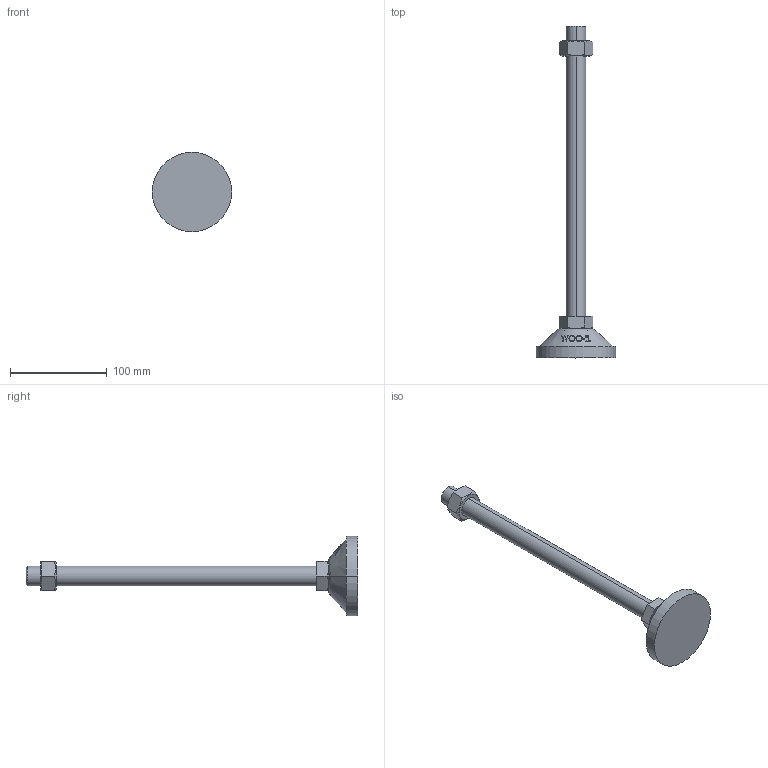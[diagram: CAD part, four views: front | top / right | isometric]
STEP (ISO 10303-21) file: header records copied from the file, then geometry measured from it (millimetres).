
FILE_DESCRIPTION (( 'STEP AP214' ), '1' );
FILE_NAME ('RL82-M20-300.step', '2021-01-06T08:19:05', ( '' ), ( '' ), 'SwSTEP 2.0', 'SolidWorks 2019', '' );
FILE_SCHEMA (( 'AUTOMOTIVE_DESIGN' ));
Length unit declared in the file: millimetre
Products named in the file (1): RL82-M20-300
Bounding box: 82 x 343 x 82 mm (x, y, z)
Volume: 222459.9 mm3; surface area: 39995.6 mm2
Topology: 3 solids, 3 shells, 93 faces, 217 edges, 140 vertices
Faces by surface type: plane 47, cone 22, bspline 16, cylinder 6, torus 2
Entity records: 4235 total; most frequent: CARTESIAN_POINT 2203, ORIENTED_EDGE 434, DIRECTION 349, EDGE_CURVE 217, VERTEX_POINT 140, AXIS2_PLACEMENT_3D 134, EDGE_LOOP 105, FACE_OUTER_BOUND 93
